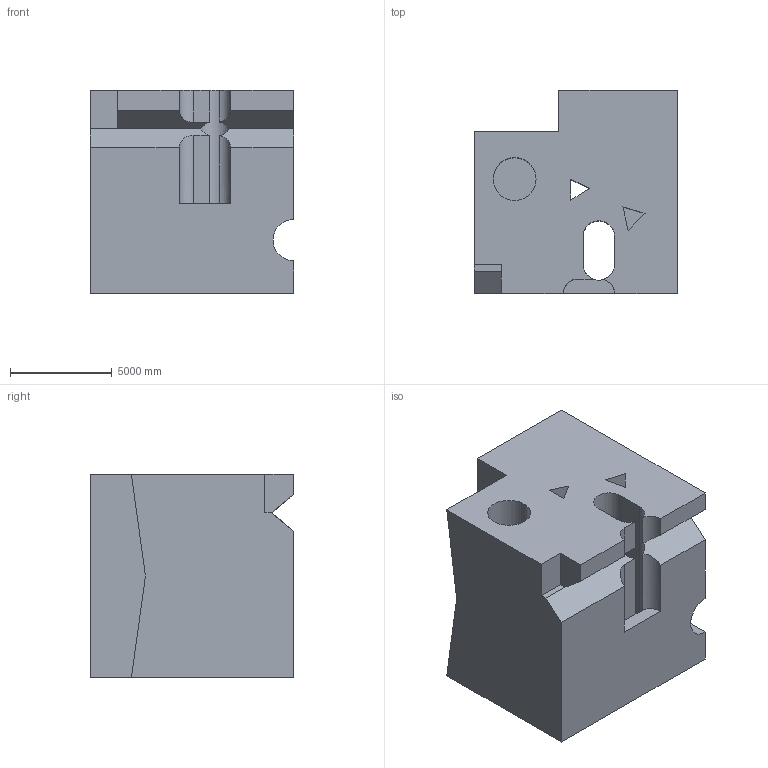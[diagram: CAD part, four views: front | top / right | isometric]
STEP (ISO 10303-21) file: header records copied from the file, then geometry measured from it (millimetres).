
FILE_DESCRIPTION (( 'STEP AP203' ), '1' );
FILE_NAME ('161.STEP', '2022-08-31T12:02:39', ( 'user' ), ( '' ), 'SwSTEP 2.0', 'SolidWorks 2021', '' );
FILE_SCHEMA (( 'CONFIG_CONTROL_DESIGN' ));
Length unit declared in the file: centimetre
Products named in the file (1): 161
Bounding box: 10000 x 10000 x 10000 mm (x, y, z)
Volume: 795281191794.7 mm3; surface area: 757961612.9 mm2
Topology: 1 solids, 1 shells, 41 faces, 113 edges, 75 vertices
Faces by surface type: plane 32, cylinder 9
Entity records: 1380 total; most frequent: CARTESIAN_POINT 254, ORIENTED_EDGE 226, DIRECTION 205, EDGE_CURVE 113, LINE 89, VECTOR 89, VERTEX_POINT 75, AXIS2_PLACEMENT_3D 58
